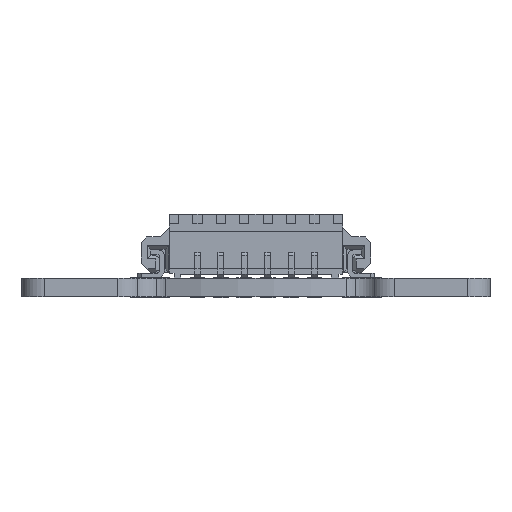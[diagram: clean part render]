
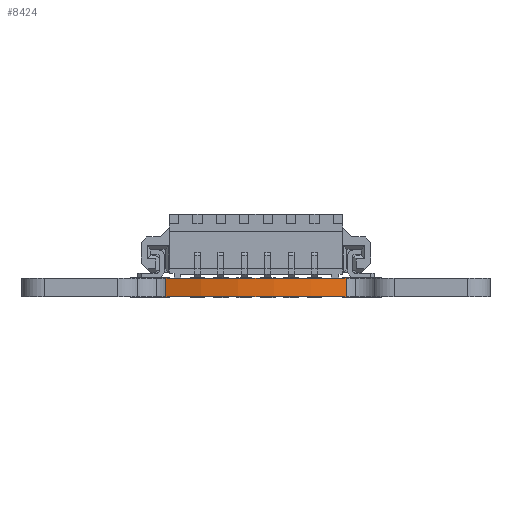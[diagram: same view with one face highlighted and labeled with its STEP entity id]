
A CAD part, left-side view. The second image highlights one B-rep face of the part: STEP entity #8424.
In plain terms, the highlighted cylindrical face has radius 12.5 mm (diameter 25 mm), a partial arc.
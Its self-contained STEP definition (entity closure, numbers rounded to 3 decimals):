
#301 = DIRECTION ( 'NONE',  ( 0., 0., 1. ) ) ;
#747 = VERTEX_POINT ( 'NONE', #2452 ) ;
#1761 = DIRECTION ( 'NONE',  ( 0., 0., 1. ) ) ;
#1995 = DIRECTION ( 'NONE',  ( 1., 0., 0. ) ) ;
#2452 = CARTESIAN_POINT ( 'NONE',  ( -11.538, -4.808, 0. ) ) ;
#3010 = VECTOR ( 'NONE', #8938, 1000. ) ;
#4314 = ORIENTED_EDGE ( 'NONE', *, *, #20603, .T. ) ;
#4449 = VERTEX_POINT ( 'NONE', #5253 ) ;
#5253 = CARTESIAN_POINT ( 'NONE',  ( -11.538, 4.808, -1. ) ) ;
#6034 = DIRECTION ( 'NONE',  ( 0., 0., 1. ) ) ;
#7141 = ORIENTED_EDGE ( 'NONE', *, *, #11328, .F. ) ;
#7708 = CARTESIAN_POINT ( 'NONE',  ( -11.538, -4.808, -1. ) ) ;
#7780 = VERTEX_POINT ( 'NONE', #10927 ) ;
#8424 = ADVANCED_FACE ( 'NONE', ( #15781 ), #10704, .T. ) ;
#8938 = DIRECTION ( 'NONE',  ( 0., 0., 1. ) ) ;
#10704 = CYLINDRICAL_SURFACE ( 'NONE', #17669, 12.5 ) ;
#10927 = CARTESIAN_POINT ( 'NONE',  ( -11.538, 4.808, 0. ) ) ;
#11328 = EDGE_CURVE ( 'NONE', #7780, #747, #20395, .T. ) ;
#11493 = ORIENTED_EDGE ( 'NONE', *, *, #21778, .F. ) ;
#11990 = CARTESIAN_POINT ( 'NONE',  ( -11.538, 4.808, -1. ) ) ;
#12108 = CARTESIAN_POINT ( 'NONE',  ( 0., 0., 0. ) ) ;
#12197 = LINE ( 'NONE', #11990, #3010 ) ;
#13022 = LINE ( 'NONE', #7708, #13730 ) ;
#13271 = EDGE_LOOP ( 'NONE', ( #7141, #11493, #17934, #4314 ) ) ;
#13730 = VECTOR ( 'NONE', #6034, 1000. ) ;
#14278 = AXIS2_PLACEMENT_3D ( 'NONE', #12108, #301, #1995 ) ;
#14753 = CIRCLE ( 'NONE', #20123, 12.5 ) ;
#15076 = DIRECTION ( 'NONE',  ( 1., 0., 0. ) ) ;
#15781 = FACE_OUTER_BOUND ( 'NONE', #13271, .T. ) ;
#17269 = CARTESIAN_POINT ( 'NONE',  ( 0., 0., -1. ) ) ;
#17591 = DIRECTION ( 'NONE',  ( 1., 0., 0. ) ) ;
#17669 = AXIS2_PLACEMENT_3D ( 'NONE', #17269, #20537, #17591 ) ;
#17934 = ORIENTED_EDGE ( 'NONE', *, *, #19671, .T. ) ;
#18047 = VERTEX_POINT ( 'NONE', #21860 ) ;
#19671 = EDGE_CURVE ( 'NONE', #4449, #18047, #14753, .T. ) ;
#20123 = AXIS2_PLACEMENT_3D ( 'NONE', #22200, #1761, #15076 ) ;
#20395 = CIRCLE ( 'NONE', #14278, 12.5 ) ;
#20537 = DIRECTION ( 'NONE',  ( 0., 0., 1. ) ) ;
#20603 = EDGE_CURVE ( 'NONE', #18047, #747, #13022, .T. ) ;
#21778 = EDGE_CURVE ( 'NONE', #4449, #7780, #12197, .T. ) ;
#21860 = CARTESIAN_POINT ( 'NONE',  ( -11.538, -4.808, -1. ) ) ;
#22200 = CARTESIAN_POINT ( 'NONE',  ( 0., 0., -1. ) ) ;
